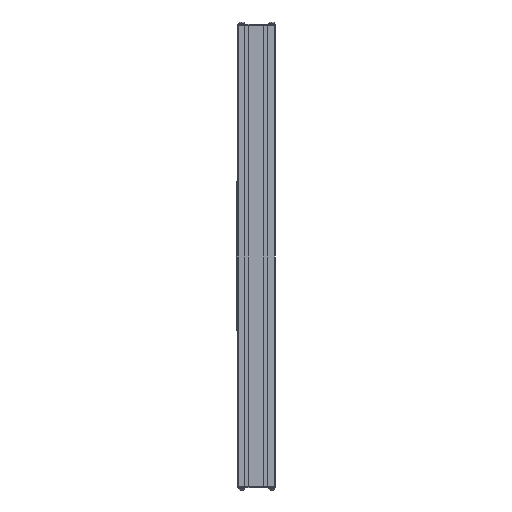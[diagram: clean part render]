
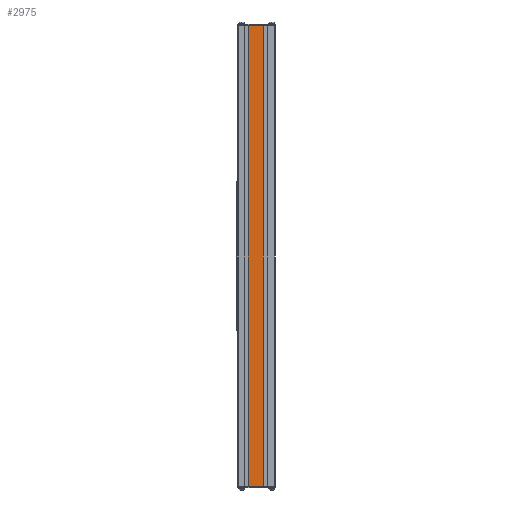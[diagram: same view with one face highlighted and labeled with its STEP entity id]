
A CAD part, left-side view. The second image highlights one B-rep face of the part: STEP entity #2975.
In plain terms, the highlighted planar face has unit normal (-1, 0, 0).
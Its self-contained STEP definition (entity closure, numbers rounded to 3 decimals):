
#38 = CARTESIAN_POINT ( 'NONE',  ( -40., 26.05, 491.5 ) ) ;
#195 = EDGE_LOOP ( 'NONE', ( #2148, #8653, #2207, #3933 ) ) ;
#244 = DIRECTION ( 'NONE',  ( 0., 0., -1. ) ) ;
#1053 = VERTEX_POINT ( 'NONE', #7979 ) ;
#1371 = VECTOR ( 'NONE', #9430, 1000. ) ;
#1416 = VECTOR ( 'NONE', #7733, 1000. ) ;
#1664 = VECTOR ( 'NONE', #5620, 1000. ) ;
#2035 = EDGE_CURVE ( 'NONE', #8107, #1053, #9635, .T. ) ;
#2148 = ORIENTED_EDGE ( 'NONE', *, *, #3972, .T. ) ;
#2207 = ORIENTED_EDGE ( 'NONE', *, *, #5116, .F. ) ;
#2561 = VERTEX_POINT ( 'NONE', #5871 ) ;
#2975 = ADVANCED_FACE ( 'NONE', ( #3442 ), #3341, .F. ) ;
#3084 = LINE ( 'NONE', #7125, #8644 ) ;
#3341 = PLANE ( 'NONE',  #7767 ) ;
#3442 = FACE_OUTER_BOUND ( 'NONE', #195, .T. ) ;
#3933 = ORIENTED_EDGE ( 'NONE', *, *, #4990, .T. ) ;
#3972 = EDGE_CURVE ( 'NONE', #7147, #1053, #3084, .T. ) ;
#4183 = DIRECTION ( 'NONE',  ( 1., 0., 0. ) ) ;
#4567 = LINE ( 'NONE', #7804, #1371 ) ;
#4990 = EDGE_CURVE ( 'NONE', #2561, #7147, #4567, .T. ) ;
#5116 = EDGE_CURVE ( 'NONE', #2561, #8107, #6092, .T. ) ;
#5620 = DIRECTION ( 'NONE',  ( 0., 0., -1. ) ) ;
#5871 = CARTESIAN_POINT ( 'NONE',  ( -40., 57.626, 491.5 ) ) ;
#6092 = LINE ( 'NONE', #10245, #1416 ) ;
#6426 = DIRECTION ( 'NONE',  ( 0., -1., 0. ) ) ;
#6734 = CARTESIAN_POINT ( 'NONE',  ( -40., 26.05, 491.5 ) ) ;
#7125 = CARTESIAN_POINT ( 'NONE',  ( -40., 26.05, -491.5 ) ) ;
#7147 = VERTEX_POINT ( 'NONE', #9080 ) ;
#7733 = DIRECTION ( 'NONE',  ( 0., -1., 0. ) ) ;
#7767 = AXIS2_PLACEMENT_3D ( 'NONE', #6734, #4183, #244 ) ;
#7804 = CARTESIAN_POINT ( 'NONE',  ( -40., 57.626, 491.5 ) ) ;
#7979 = CARTESIAN_POINT ( 'NONE',  ( -40., 26.05, -491.5 ) ) ;
#8107 = VERTEX_POINT ( 'NONE', #8445 ) ;
#8445 = CARTESIAN_POINT ( 'NONE',  ( -40., 26.05, 491.5 ) ) ;
#8644 = VECTOR ( 'NONE', #6426, 1000. ) ;
#8653 = ORIENTED_EDGE ( 'NONE', *, *, #2035, .F. ) ;
#9080 = CARTESIAN_POINT ( 'NONE',  ( -40., 57.626, -491.5 ) ) ;
#9430 = DIRECTION ( 'NONE',  ( 0., 0., -1. ) ) ;
#9635 = LINE ( 'NONE', #38, #1664 ) ;
#10245 = CARTESIAN_POINT ( 'NONE',  ( -40., 26.05, 491.5 ) ) ;
